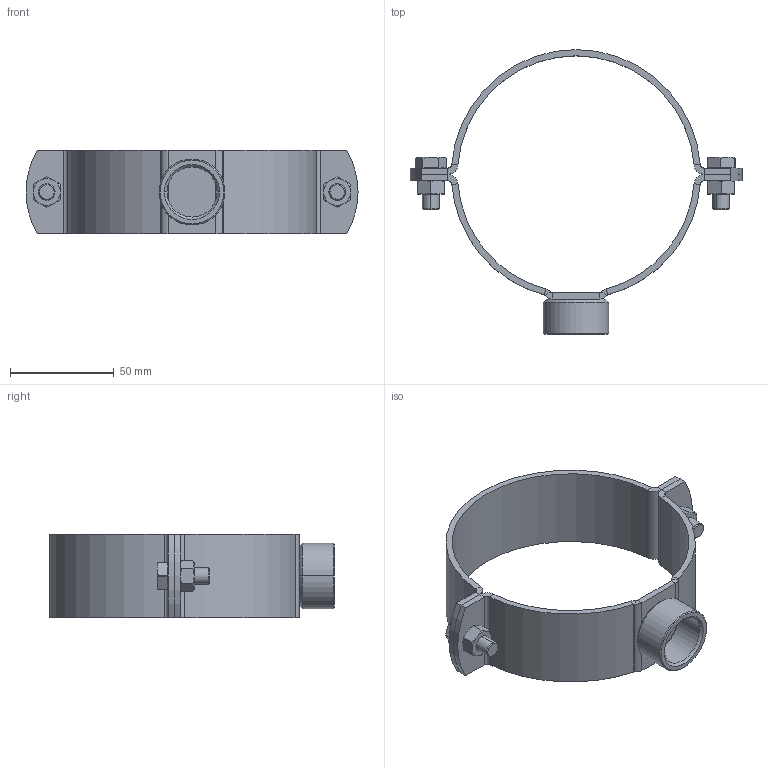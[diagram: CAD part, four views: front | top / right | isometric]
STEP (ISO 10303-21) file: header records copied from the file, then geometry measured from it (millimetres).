
FILE_DESCRIPTION (( 'STEP AP203' ), '1' );
FILE_NAME ('51.819.STEP', '2019-11-21T16:10:51', ( '' ), ( '' ), 'SwSTEP 2.0', 'SolidWorks 2019', '' );
FILE_SCHEMA (( 'CONFIG_CONTROL_DESIGN' ));
Length unit declared in the file: millimetre
Products named in the file (7): 1000003369_10 - Gr. 113-116 - H-17104.010; 1000003263_E-10254.002-Inox V4A (1.4404); 1000003380_10 - Gr. 113-116 - H-17105.610; 1000003360_10 - Gr. 113-116 - H-17103.010; 1000003484; 1000003486; 51.819
Assembly tree (8 placements, depth 3):
  51.819
    1000003380_10 - Gr. 113-116 - H-17105.610
      1000003369_10 - Gr. 113-116 - H-17104.010
      1000003263_E-10254.002-Inox V4A (1.4404)
    1000003360_10 - Gr. 113-116 - H-17103.010
    1000003484  x2
    1000003486  x2
Bounding box: 160 x 137.2 x 40 mm (x, y, z)
Volume: 62077.1 mm3; surface area: 44513 mm2
Topology: 7 solids, 7 shells, 214 faces, 462 edges, 264 vertices
Faces by surface type: plane 90, cylinder 62, cone 62
Entity records: 4974 total; most frequent: CARTESIAN_POINT 861, DIRECTION 757, ORIENTED_EDGE 650, EDGE_CURVE 325, AXIS2_PLACEMENT_3D 304, VERTEX_POINT 184, EDGE_LOOP 165, ADVANCED_FACE 152
